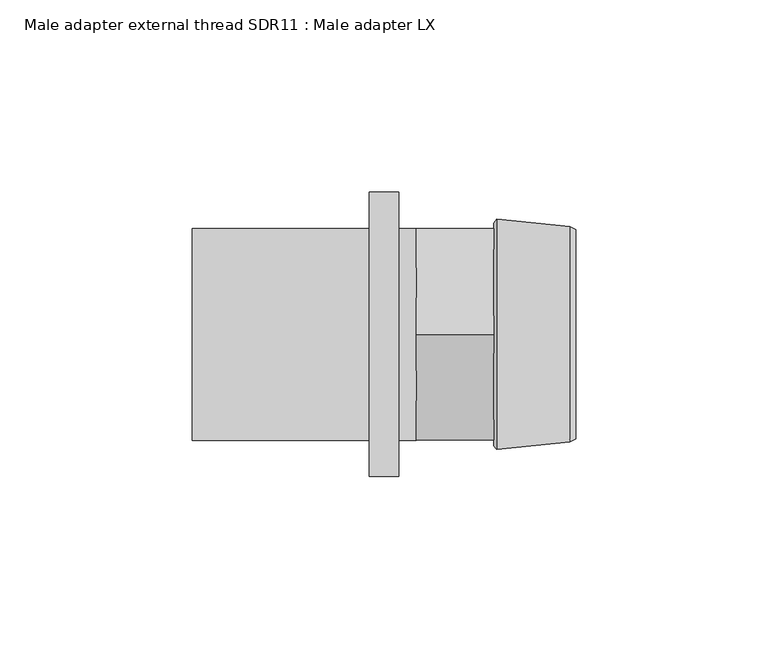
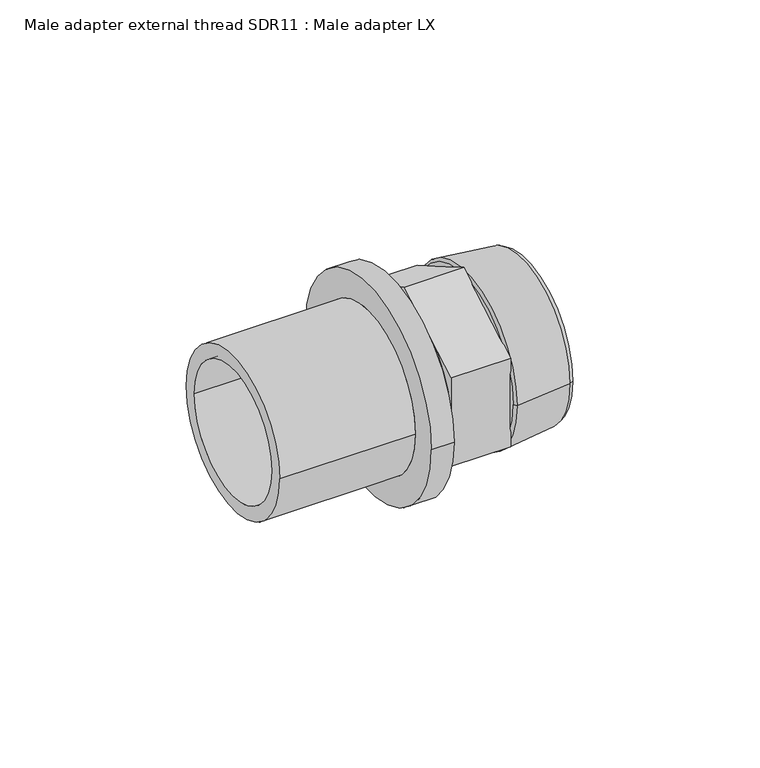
"""IFC4 building model written with IfcOpenShell, lengths in millimetres: pipe fitting geometry, Male adapter external thread SDR11 : Male adapter LX."""

from ifc_helpers import new_model, si_unit, frame, origin, place, context, project, spatial, polyline, circle_curve, outline, extrude, source, transform, mapped, element, save
from ifc_brep_helpers import plane_surface, cylinder_surface, revolved_surface, advanced_brep


def male_adapter_external_thread_sdr11_male_adapter_lx_cf543375(model_context):
    return source(origin(), model_context, "Body", "SolidModel", [
        advanced_brep(
        [(-12.2, 27.55, 0.0), (-12.2, -27.55, 0.0), (-58.2, -27.55, 0.0), (-58.2, 27.55, 0.0), (-4.5, 37.0, 0.0), (-4.5, -37.0, 0.0), (-12.2, -37.0, 0.0), (-12.2, 37.0, 0.0), (0.0, 27.55, 0.0), (0.0, -27.55, 0.0), (-4.5, -27.55, 0.0), (-4.5, 27.55, 0.0), (-58.2, 22.75, 0.0), (-58.2, -22.75, 0.0), (0.0, -22.75, 0.0), (0.0, 22.75, 0.0)],
        [
            (0, 1, circle_curve(frame((-12.2, 0.0, 0.0), z_axis=(-1.0, 0.0, 0.0), x_axis=(0.0, -1.0, 0.0)), 27.55)),
            (1, 2),
            (2, 3, circle_curve(frame((-58.2, 0.0, 0.0), z_axis=(1.0, 0.0, 0.0), x_axis=(0.0, -1.0, 0.0)), 27.55)),
            (3, 0),
            (4, 5, circle_curve(frame((-4.5, 0.0, 0.0), z_axis=(-1.0, 0.0, 0.0), x_axis=(0.0, -1.0, 0.0)), 37.0)),
            (5, 6),
            (6, 7, circle_curve(frame((-12.2, 0.0, 0.0), z_axis=(1.0, 0.0, 0.0), x_axis=(0.0, -1.0, 0.0)), 37.0)),
            (7, 4),
            (8, 9, circle_curve(frame((0.0, 0.0, 0.0), z_axis=(-1.0, 0.0, 0.0), x_axis=(0.0, -1.0, 0.0)), 27.55)),
            (9, 10),
            (10, 11, circle_curve(frame((-4.5, 0.0, 0.0), z_axis=(1.0, 0.0, 0.0), x_axis=(0.0, -1.0, 0.0)), 27.55)),
            (11, 8),
            (12, 13, circle_curve(frame((-58.2, 0.0, 0.0), z_axis=(-1.0, 0.0, 0.0), x_axis=(0.0, -1.0, 0.0)), 22.75)),
            (13, 14),
            (14, 15, circle_curve(frame((0.0, 0.0, 0.0), z_axis=(1.0, 0.0, 0.0), x_axis=(0.0, -1.0, 0.0)), 22.75)),
            (15, 12),
            (2, 3, circle_curve(frame((-58.2, 0.0, 0.0), z_axis=(-1.0, 0.0, 0.0), x_axis=(0.0, 1.0, 0.0)), 27.55)),
            (12, 13, circle_curve(frame((-58.2, 0.0, 0.0), z_axis=(1.0, 0.0, 0.0), x_axis=(0.0, 1.0, 0.0)), 22.75)),
            (1, 0, circle_curve(frame((-12.2, 0.0, 0.0), z_axis=(-1.0, 0.0, 0.0), x_axis=(0.0, 1.0, 0.0)), 27.55)),
            (6, 7, circle_curve(frame((-12.2, 0.0, 0.0), z_axis=(-1.0, 0.0, 0.0), x_axis=(0.0, 1.0, 0.0)), 37.0)),
            (5, 4, circle_curve(frame((-4.5, 0.0, 0.0), z_axis=(-1.0, 0.0, 0.0), x_axis=(0.0, 1.0, 0.0)), 37.0)),
            (10, 11, circle_curve(frame((-4.5, 0.0, 0.0), z_axis=(-1.0, 0.0, 0.0), x_axis=(0.0, 1.0, 0.0)), 27.55)),
            (9, 8, circle_curve(frame((0.0, 0.0, 0.0), z_axis=(-1.0, 0.0, 0.0), x_axis=(0.0, 1.0, 0.0)), 27.55)),
            (14, 15, circle_curve(frame((0.0, 0.0, 0.0), z_axis=(-1.0, 0.0, 0.0), x_axis=(0.0, 1.0, 0.0)), 22.75)),
        ],
        [
            cylinder_surface(frame((0.0, 0.0, 0.0), z_axis=(1.0, 0.0, 0.0), x_axis=(0.0, -1.0, 0.0)), 27.55),
            cylinder_surface(frame((0.0, 0.0, 0.0), z_axis=(1.0, 0.0, 0.0), x_axis=(0.0, -1.0, 0.0)), 37.0),
            revolved_surface(polyline([(0.0, -22.75, 0.0), (-58.2, -22.75, 0.0)]), (0.0, 0.0, 0.0), (1.0, 0.0, 0.0)),
            plane_surface(frame((-58.2, 0.0, 0.0), z_axis=(-1.0, 0.0, 0.0), x_axis=(0.0, 1.0, 0.0))),
            cylinder_surface(frame((0.0, 0.0, 0.0), z_axis=(1.0, 0.0, 0.0), x_axis=(0.0, 1.0, 0.0)), 27.55),
            plane_surface(frame((-12.2, 0.0, 0.0), z_axis=(-1.0, 0.0, 0.0), x_axis=(0.0, 1.0, 0.0))),
            cylinder_surface(frame((0.0, 0.0, 0.0), z_axis=(1.0, 0.0, 0.0), x_axis=(0.0, 1.0, 0.0)), 37.0),
            plane_surface(frame((-4.5, 0.0, 0.0), z_axis=(1.0, 0.0, 0.0), x_axis=(0.0, 1.0, 0.0))),
            plane_surface(frame((0.0, 0.0, 0.0), z_axis=(1.0, 0.0, 0.0), x_axis=(0.0, 1.0, 0.0))),
            revolved_surface(polyline([(0.0, 22.75, 0.0), (-58.2, 22.75, 0.0)]), (0.0, 0.0, 0.0), (1.0, 0.0, 0.0)),
        ],
        [
            (0, [[1, 2, 3, 4]]),
            (1, [[5, 6, 7, 8]]),
            (0, [[9, 10, 11, 12]]),
            (2, [[13, 14, 15, 16]]),
            (3, [[17, -3], [18, -13]]),
            (4, [[19, -4, -17, -2]]),
            (5, [[20, -7], [-19, -1]]),
            (6, [[21, -8, -20, -6]]),
            (7, [[-21, -5], [22, -11]]),
            (4, [[23, -12, -22, -10]]),
            (8, [[-23, -9], [24, -15]]),
            (9, [[-18, -16, -24, -14]]),
        ],
    ),
        advanced_brep(
        [(21.3032803, 22.75, 0.0), (21.3032803, -22.75, 0.0), (41.5, -22.75, 0.0), (41.5, 22.75, 0.0), (20.2, 21.6467197, 0.0), (20.2, -21.6467197, 0.0), (20.9406902, 30.0, 0.0), (20.9406902, -30.0, 0.0), (20.2, -29.0, 0.0), (20.2, 29.0, 0.0), (40.0000007, 28.0, 0.0), (40.0000007, -28.0, 0.0), (41.5, 27.25, 0.0), (41.5, -27.25, 0.0)],
        [
            (0, 1, circle_curve(frame((21.3032803, 0.0, 0.0), z_axis=(-1.0, 0.0, 0.0), x_axis=(0.0, -1.0, 0.0)), 22.75)),
            (1, 2),
            (2, 3, circle_curve(frame((41.5, 0.0, 0.0), z_axis=(1.0, 0.0, 0.0), x_axis=(0.0, -1.0, 0.0)), 22.75)),
            (3, 0),
            (4, 5, circle_curve(frame((20.2, 0.0, 0.0), z_axis=(-1.0, 0.0, 0.0), x_axis=(0.0, -1.0, 0.0)), 21.6467197)),
            (5, 1),
            (0, 4),
            (6, 7, circle_curve(frame((20.9406902, 0.0, 0.0), z_axis=(-1.0, 0.0, 0.0), x_axis=(0.0, -1.0, 0.0)), 30.0)),
            (7, 8),
            (8, 9, circle_curve(frame((20.2, 0.0, 0.0), z_axis=(1.0, 0.0, 0.0), x_axis=(0.0, -1.0, 0.0)), 29.0)),
            (9, 6),
            (10, 11, circle_curve(frame((40.0000007, 0.0, 0.0), z_axis=(-1.0, 0.0, 0.0), x_axis=(0.0, -1.0, 0.0)), 28.0)),
            (11, 7),
            (6, 10),
            (12, 13, circle_curve(frame((41.5, 0.0, 0.0), z_axis=(-1.0, 0.0, 0.0), x_axis=(0.0, -1.0, 0.0)), 27.25)),
            (13, 11),
            (10, 12),
            (1, 0, circle_curve(frame((21.3032803, 0.0, 0.0), z_axis=(-1.0, 0.0, 0.0), x_axis=(0.0, 1.0, 0.0)), 22.75)),
            (3, 2, circle_curve(frame((41.5, 0.0, 0.0), z_axis=(1.0, 0.0, 0.0), x_axis=(0.0, 1.0, 0.0)), 22.75)),
            (5, 4, circle_curve(frame((20.2, 0.0, 0.0), z_axis=(-1.0, 0.0, 0.0), x_axis=(0.0, 1.0, 0.0)), 21.6467197)),
            (8, 9, circle_curve(frame((20.2, 0.0, 0.0), z_axis=(-1.0, 0.0, 0.0), x_axis=(0.0, 1.0, 0.0)), 29.0)),
            (7, 6, circle_curve(frame((20.9406902, 0.0, 0.0), z_axis=(-1.0, 0.0, 0.0), x_axis=(0.0, 1.0, 0.0)), 30.0)),
            (11, 10, circle_curve(frame((40.0000007, 0.0, 0.0), z_axis=(-1.0, 0.0, 0.0), x_axis=(0.0, 1.0, 0.0)), 28.0)),
            (13, 12, circle_curve(frame((41.5, 0.0, 0.0), z_axis=(-1.0, 0.0, 0.0), x_axis=(0.0, 1.0, 0.0)), 27.25)),
        ],
        [
            revolved_surface(polyline([(41.5, -22.75, 0.0), (21.3032803, -22.75, 0.0)]), (0.0, 0.0, 0.0), (1.0, 0.0, 0.0)),
            revolved_surface(polyline([(21.3032803, -22.75, 0.0), (20.2, -21.6467197, 0.0)]), (0.0, 0.0, 0.0), (1.0, 0.0, 0.0)),
            revolved_surface(polyline([(20.2, -29.0, 0.0), (20.9406902, -30.0, 0.0)]), (0.0, 0.0, 0.0), (1.0, 0.0, 0.0)),
            revolved_surface(polyline([(20.9406902, -30.0, 0.0), (40.0000007, -28.0, 0.0)]), (0.0, 0.0, 0.0), (1.0, 0.0, 0.0)),
            revolved_surface(polyline([(40.0000007, -28.0, 0.0), (41.5, -27.25, 0.0)]), (0.0, 0.0, 0.0), (1.0, 0.0, 0.0)),
            revolved_surface(polyline([(41.5, 22.75, 0.0), (21.3032803, 22.75, 0.0)]), (0.0, 0.0, 0.0), (1.0, 0.0, 0.0)),
            revolved_surface(polyline([(21.3032803, 22.75, 0.0), (20.2, 21.6467197, 0.0)]), (0.0, 0.0, 0.0), (1.0, 0.0, 0.0)),
            plane_surface(frame((20.2, 0.0, 0.0), z_axis=(-1.0, 0.0, 0.0), x_axis=(0.0, 1.0, 0.0))),
            revolved_surface(polyline([(20.2, 29.0, 0.0), (20.9406902, 30.0, 0.0)]), (0.0, 0.0, 0.0), (1.0, 0.0, 0.0)),
            revolved_surface(polyline([(20.9406902, 30.0, 0.0), (40.0000007, 28.0, 0.0)]), (0.0, 0.0, 0.0), (1.0, 0.0, 0.0)),
            revolved_surface(polyline([(40.0000007, 28.0, 0.0), (41.5, 27.25, 0.0)]), (0.0, 0.0, 0.0), (1.0, 0.0, 0.0)),
            plane_surface(frame((41.5, 0.0, 0.0), z_axis=(1.0, 0.0, 0.0), x_axis=(0.0, 1.0, 0.0))),
        ],
        [
            (0, [[1, 2, 3, 4]]),
            (1, [[5, 6, -1, 7]]),
            (2, [[8, 9, 10, 11]]),
            (3, [[12, 13, -8, 14]]),
            (4, [[15, 16, -12, 17]]),
            (5, [[18, -4, 19, -2]]),
            (6, [[20, -7, -18, -6]]),
            (7, [[21, -10], [-20, -5]]),
            (8, [[22, -11, -21, -9]]),
            (9, [[23, -14, -22, -13]]),
            (10, [[24, -17, -23, -16]]),
            (11, [[-24, -15], [-19, -3]]),
        ],
    ),
        extrude(outline(polyline([(-27.5, 15.8771324), (0.0, 31.7542648), (27.5, 15.8771324), (27.5, -15.8771324), (0.0, -31.7542648), (-27.5, -15.8771324), (-27.5, 15.8771324)])), frame((0.0, 0.0, 0.0), z_axis=(1.0, 0.0, 0.0), x_axis=(0.0, 1.0, 0.0)), (0.0, 0.0, 1.0), 20.2),
    ])


if __name__ == "__main__":
    model = new_model("IFC4")
    model_context = context("Model", 3, world=origin())
    ifc_project = project(units=[si_unit("LENGTHUNIT", "METRE", prefix="MILLI")], contexts=[model_context])
    site = spatial("IfcSite", under=ifc_project)
    building = spatial("IfcBuilding", under=site)
    placement = place(None, origin())
    male_adapter_external_thread_sdr11_male_adapter_lx_shape = male_adapter_external_thread_sdr11_male_adapter_lx_cf543375(model_context)
    element("IfcPipeFitting", 1, ObjectType="Male adapter external thread SDR11 : Male adapter LX", at=placement, inside=building, context=model_context, shape_type="MappedRepresentation", body=[
        mapped(male_adapter_external_thread_sdr11_male_adapter_lx_shape, transform((0.0, 0.0, 0.0), x_axis=(1.0, 0.0, 0.0), y_axis=(0.0, 1.0, 0.0), z_axis=(0.0, 0.0, 1.0))),
    ])
    save(model, "model.ifc")
